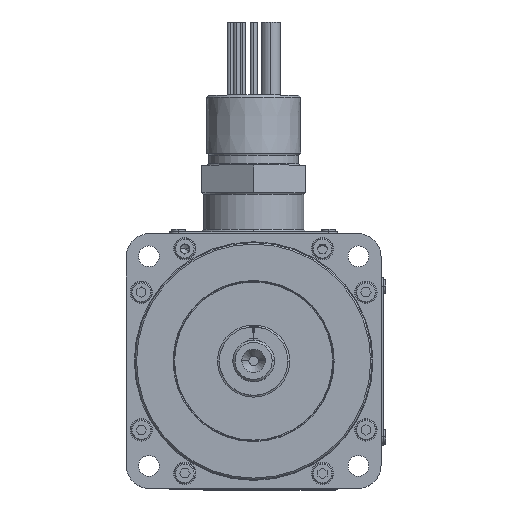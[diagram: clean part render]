
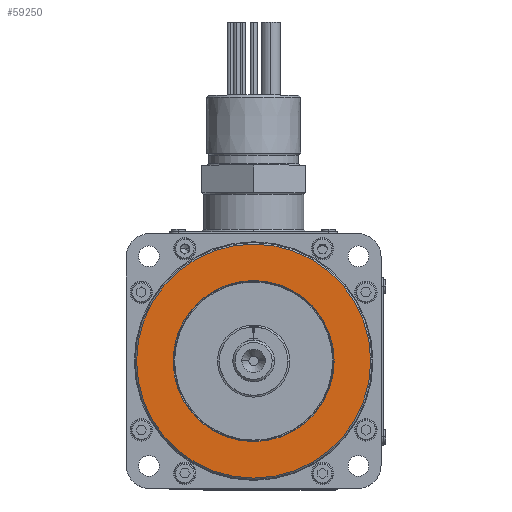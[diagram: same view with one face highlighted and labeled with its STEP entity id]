
A CAD part, top view. The second image highlights one B-rep face of the part: STEP entity #59250.
In plain terms, the highlighted planar face has unit normal (0, 0, 1).
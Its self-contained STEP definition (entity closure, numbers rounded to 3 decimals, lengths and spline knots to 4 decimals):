
#1741 = CARTESIAN_POINT ( 'NONE',  ( 0., 0., -1.2339 ) ) ;
#1761 = DIRECTION ( 'NONE',  ( 0., 0., -1. ) ) ;
#1762 = DIRECTION ( 'NONE',  ( -1., 0., 0. ) ) ;
#1764 = CARTESIAN_POINT ( 'NONE',  ( 0., 0., -1.2339 ) ) ;
#1768 = DIRECTION ( 'NONE',  ( 0., 0., -1. ) ) ;
#1770 = DIRECTION ( 'NONE',  ( -1., 0., 0. ) ) ;
#2300 = FACE_BOUND ( 'NONE', #52195, .T. ) ;
#2330 = FACE_OUTER_BOUND ( 'NONE', #52220, .T. ) ;
#14376 = VERTEX_POINT ( 'NONE', #66125 ) ;
#14413 = VERTEX_POINT ( 'NONE', #66150 ) ;
#14414 = VERTEX_POINT ( 'NONE', #66151 ) ;
#15720 = VERTEX_POINT ( 'NONE', #19673 ) ;
#19673 = CARTESIAN_POINT ( 'NONE',  ( 1.5548, 0., -1.2339 ) ) ;
#23661 = CARTESIAN_POINT ( 'NONE',  ( 0., 0., -1.2339 ) ) ;
#23703 = DIRECTION ( 'NONE',  ( 0., 0., -1. ) ) ;
#23706 = DIRECTION ( 'NONE',  ( -1., 0., 0. ) ) ;
#23822 = CARTESIAN_POINT ( 'NONE',  ( 0., 0., -1.2339 ) ) ;
#23825 = DIRECTION ( 'NONE',  ( 0., 0., -1. ) ) ;
#23827 = DIRECTION ( 'NONE',  ( -1., 0., 0. ) ) ;
#49084 = EDGE_CURVE ( 'NONE', #14413, #14376, #77038, .T. ) ;
#49112 = EDGE_CURVE ( 'NONE', #15720, #14414, #77055, .T. ) ;
#49232 = EDGE_CURVE ( 'NONE', #14414, #15720, #77145, .T. ) ;
#49234 = EDGE_CURVE ( 'NONE', #14376, #14413, #77146, .T. ) ;
#49855 = AXIS2_PLACEMENT_3D ( 'NONE', #54396, #54399, #54400 ) ;
#52195 = EDGE_LOOP ( 'NONE', ( #59843, #59774 ) ) ;
#52220 = EDGE_LOOP ( 'NONE', ( #59775, #59776 ) ) ;
#54396 = CARTESIAN_POINT ( 'NONE',  ( 0., 1.5548, -1.2339 ) ) ;
#54397 = PLANE ( 'NONE',  #49855 ) ;
#54399 = DIRECTION ( 'NONE',  ( 0., 0., 1. ) ) ;
#54400 = DIRECTION ( 'NONE',  ( 1., 0., 0. ) ) ;
#59250 = ADVANCED_FACE ( 'NONE', ( #2300, #2330 ), #54397, .T. ) ;
#59774 = ORIENTED_EDGE ( 'NONE', *, *, #49084, .T. ) ;
#59775 = ORIENTED_EDGE ( 'NONE', *, *, #49232, .F. ) ;
#59776 = ORIENTED_EDGE ( 'NONE', *, *, #49112, .F. ) ;
#59843 = ORIENTED_EDGE ( 'NONE', *, *, #49234, .T. ) ;
#66125 = CARTESIAN_POINT ( 'NONE',  ( 1.07, 0., -1.2339 ) ) ;
#66150 = CARTESIAN_POINT ( 'NONE',  ( -1.07, 0., -1.2339 ) ) ;
#66151 = CARTESIAN_POINT ( 'NONE',  ( -1.5548, 0., -1.2339 ) ) ;
#70473 = AXIS2_PLACEMENT_3D ( 'NONE', #23661, #23703, #23706 ) ;
#70481 = AXIS2_PLACEMENT_3D ( 'NONE', #23822, #23825, #23827 ) ;
#70513 = AXIS2_PLACEMENT_3D ( 'NONE', #1764, #1768, #1770 ) ;
#70518 = AXIS2_PLACEMENT_3D ( 'NONE', #1741, #1761, #1762 ) ;
#77038 = CIRCLE ( 'NONE', #70473, 1.07 ) ;
#77055 = CIRCLE ( 'NONE', #70481, 1.5548 ) ;
#77145 = CIRCLE ( 'NONE', #70518, 1.5548 ) ;
#77146 = CIRCLE ( 'NONE', #70513, 1.07 ) ;
